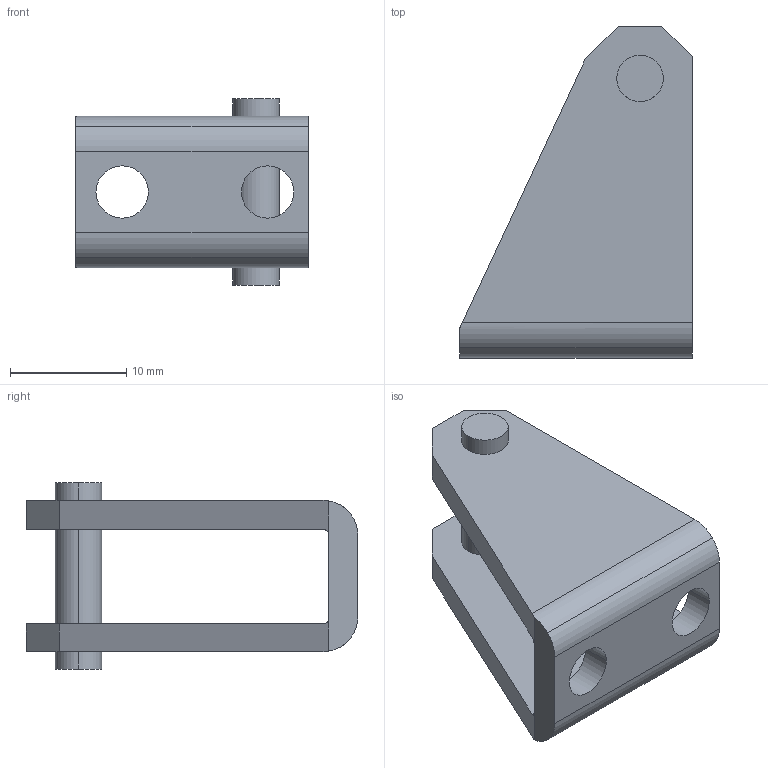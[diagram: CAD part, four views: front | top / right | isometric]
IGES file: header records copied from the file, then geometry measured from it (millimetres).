
Global section: file name: No Iges File Name specified; native system: AutoDesk Inventor R6.0; preprocessor: AutoDesk Inventor Iges Exporter R6.0; author: No Author specified; organization: No Organization specified; date: 20030408.082012; units: millimetre
Bounding box: 20 x 28.5 x 16 mm (x, y, z)
Volume: 2383 mm3; surface area: 2363.8 mm2
Topology: 1 solids, 1 shells, 36 faces, 94 edges, 62 vertices
Faces by surface type: plane 18, cylinder 10, bspline 4, revolution 4
